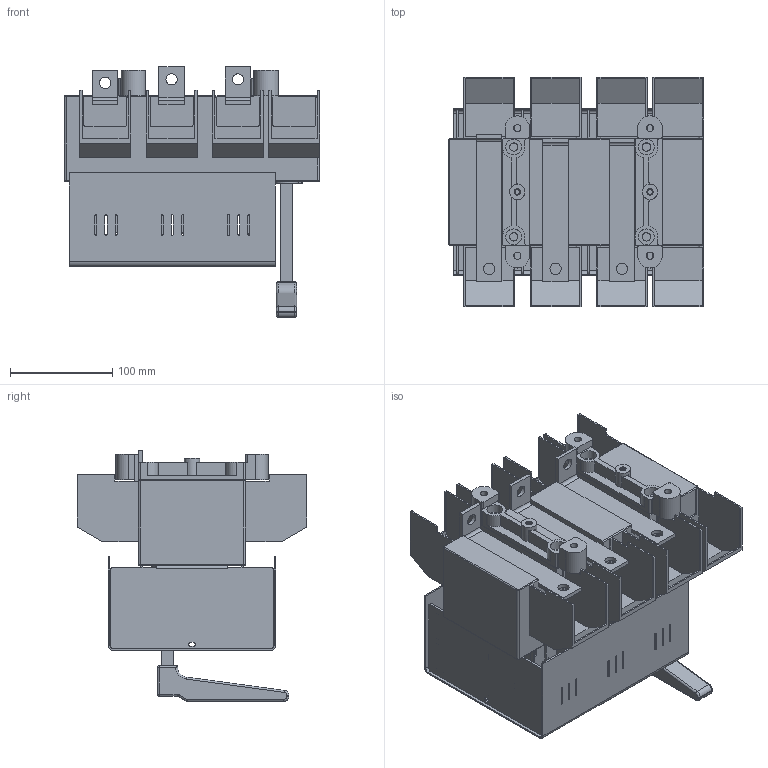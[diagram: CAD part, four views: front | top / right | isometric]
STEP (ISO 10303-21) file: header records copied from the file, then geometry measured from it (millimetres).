
FILE_DESCRIPTION(/* description */ (''),/* implementation_level */ '2;1');
FILE_NAME(/* name */ 'RAB 1 P3 B-R z oslona zaciskow.stp',/* time_stamp */ '2021-08-19T12:44:57+02:00',/* author */ (''),/* organization */ (''),/* preprocessor_version */ 'ST-DEVELOPER v18.1',/* originating_system */ 'SIEMENS PLM Software NX 1965',/* authorisation */ '');
FILE_SCHEMA (('AUTOMOTIVE_DESIGN { 1 0 10303 214 3 1 1 1 }'));
Length unit declared in the file: millimetre
Products named in the file (1): RAB 1 P3 B-R z oslona zaciskow
Bounding box: 250 x 225 x 245.69 mm (x, y, z)
Volume: 2647748.4 mm3; surface area: 608480.8 mm2
Topology: 1 solids, 1 shells, 1244 faces, 3451 edges, 2245 vertices
Faces by surface type: plane 847, cylinder 375, bspline 8, torus 8, sphere 6
Full cylindrical faces by diameter (mm): 4.8 x2, 6.2 x2, 7 x4, 8.2 x4, 11 x6, 14 x4, 15 x2, 15.5 x4
Entity records: 39709 total; most frequent: CARTESIAN_POINT 7081, ORIENTED_EDGE 6826, DIRECTION 6669, EDGE_CURVE 3413, LINE 2615, VECTOR 2615, VERTEX_POINT 2238, AXIS2_PLACEMENT_3D 2027
